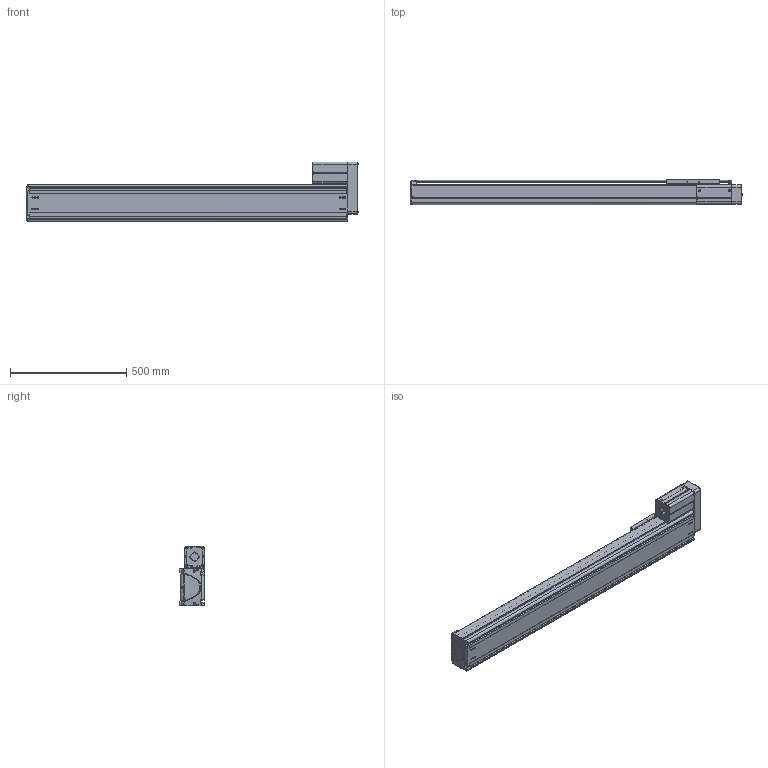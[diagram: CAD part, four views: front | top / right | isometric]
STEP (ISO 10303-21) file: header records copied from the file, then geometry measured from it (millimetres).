
FILE_DESCRIPTION((''),'2;1');
FILE_NAME('BE50F-UR-L_N-A5_IGS_PRT','2017-06-18T',(' '),(''),'PRO/ENGINEER BY PARAMETRIC TECHNOLOGY CORPORATION, 2015030','PRO/ENGINEER BY PARAMETRIC TECHNOLOGY CORPORATION, 2015030','');
FILE_SCHEMA(('CONFIG_CONTROL_DESIGN'));
Length unit declared in the file: millimetre
Products named in the file (1): BE50F-UR-L_N-A5_IGS_PRT
Bounding box: 1425.88 x 110 x 257 mm (x, y, z)
Volume: 5867198 mm3; surface area: 2402164.7 mm2
Topology: 6 solids, 144 shells, 2301 faces, 6328 edges, 4142 vertices
Faces by surface type: plane 1012, cylinder 1007, cone 143, torus 59, bspline 48, sphere 32
Entity records: 76808 total; most frequent: CARTESIAN_POINT 17707, DIRECTION 12331, ORIENTED_EDGE 12036, EDGE_CURVE 6278, AXIS2_PLACEMENT_3D 4417, VERTEX_POINT 4138, VECTOR 3497, LINE 3497
